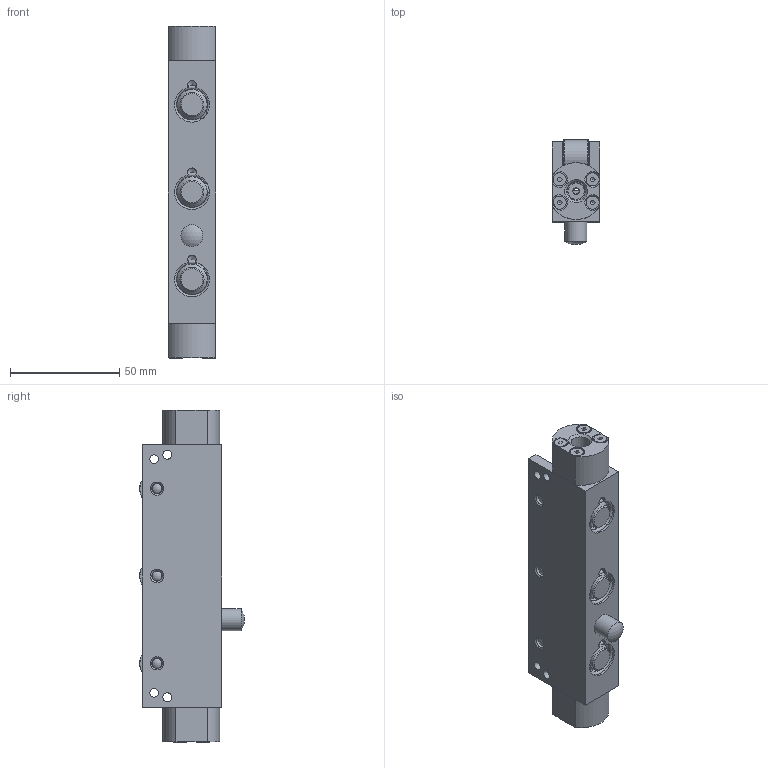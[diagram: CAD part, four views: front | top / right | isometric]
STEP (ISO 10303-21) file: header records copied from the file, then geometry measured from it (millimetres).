
FILE_DESCRIPTION(/* description */ ('EHR22-03'),/* implementation_level */ '2;1');
FILE_NAME(/* name */ 'S:\EASCN Vault\Designs\Standard Part\DIE LIFTERS\EHR\EHR- 3D step\EHR22-C - 3D step complete serie\EHR22-03-C.stp',/* time_stamp */ '2019-10-29T16:23:35+08:00',/* author */ ('yue.yang'),/* organization */ (''),/* preprocessor_version */ 'ST-DEVELOPER v17',/* originating_system */ 'Autodesk Inventor 2019',/* authorisation */ '');
FILE_SCHEMA (('AP203_CONFIGURATION_CONTROLLED_3D_DESIGN_OF_MECHANICAL_PARTS_AND_ASSEMBLIES_MIM_LF { 1 0 10303 203 3 1 4 }','AUTOMOTIVE_DESIGN { 1 0 10303 214 3 1 1 }'));
Length unit declared in the file: millimetre
Products named in the file (2): EHR22-03-C; EHR22-03-C_Substitute_1
Assembly tree (1 placements, depth 2):
  EHR22-03-C
    EHR22-03-C_Substitute_1
Bounding box: 21.8 x 48.05 x 152 mm (x, y, z)
Volume: 88234.5 mm3; surface area: 43040.7 mm2
Topology: 27 solids, 27 shells, 377 faces, 1072 edges, 743 vertices
Faces by surface type: plane 129, cylinder 116, cone 83, torus 41, sphere 8
Full cylindrical faces by diameter (mm): 2.459 x8, 3 x10, 3.2 x8, 4 x8, 5 x9, 6 x12, 7.5 x2, 8.566 x2, 10 x8, 11 x3, 12.5 x6, 13.4 x6, 13.8 x3, 15.95 x6, 16 x6, 16.04 x3
Entity records: 13383 total; most frequent: CARTESIAN_POINT 2702, DIRECTION 2285, ORIENTED_EDGE 2104, EDGE_CURVE 1052, AXIS2_PLACEMENT_3D 968, VERTEX_POINT 743, CIRCLE 588, EDGE_LOOP 453
